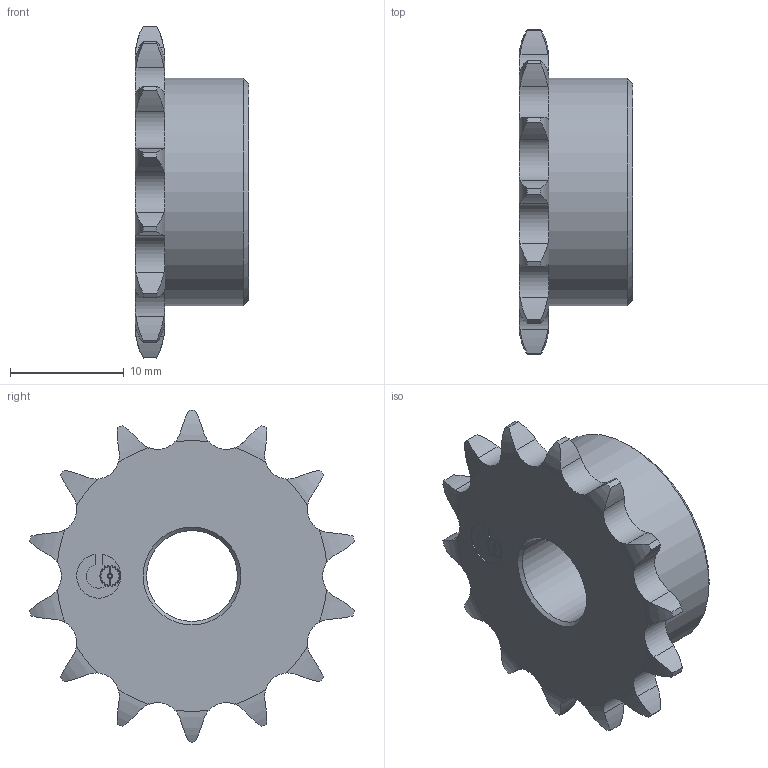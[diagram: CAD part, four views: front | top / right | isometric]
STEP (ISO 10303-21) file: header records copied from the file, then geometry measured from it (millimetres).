
FILE_DESCRIPTION(/* description */ (''),/* implementation_level */ '2;1');
FILE_NAME(/* name */ 'W:\DISEGNI LUCA SALVATAGGIO LOCALE\disegni Fabio Colombo\DISEGNI CATALOGO PIGNONI\PIGNONI ISO606\02- DIN8187 6x2.8\DIN8187 6x2.8 -3D\10106014.stp',/* time_stamp */ '2022-11-11T15:13:41+01:00',/* author */ ('luca.leone'),/* organization */ (''),/* preprocessor_version */ 'ST-DEVELOPER v19',/* originating_system */ 'Autodesk Inventor 2023',/* authorisation */ '');
FILE_SCHEMA (('AUTOMOTIVE_DESIGN { 1 0 10303 214 3 1 1 }'));
Length unit declared in the file: millimetre
Products named in the file (1): 10106014
Bounding box: 10 x 28.58 x 29.2 mm (x, y, z)
Volume: 3087.7 mm3; surface area: 1875.1 mm2
Topology: 1 solids, 1 shells, 184 faces, 529 edges, 351 vertices
Faces by surface type: cylinder 100, plane 53, torus 28, cone 3
Full cylindrical faces by diameter (mm): 0.322 x1, 8 x1, 20 x1
Entity records: 6411 total; most frequent: CARTESIAN_POINT 1585, ORIENTED_EDGE 1058, DIRECTION 962, EDGE_CURVE 529, AXIS2_PLACEMENT_3D 360, VERTEX_POINT 351, LINE 242, VECTOR 242
